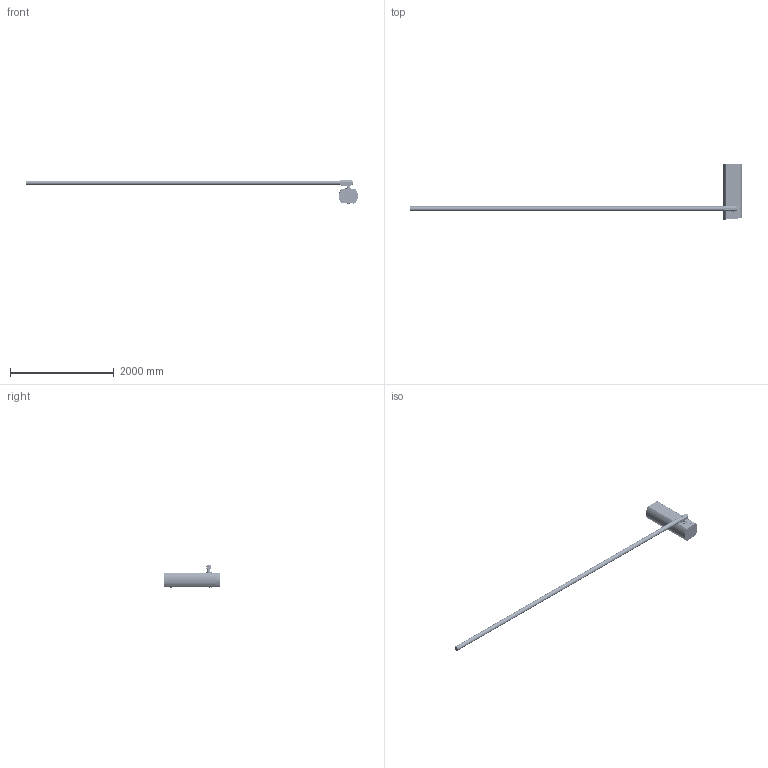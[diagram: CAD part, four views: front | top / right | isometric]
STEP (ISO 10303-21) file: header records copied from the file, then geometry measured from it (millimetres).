
FILE_DESCRIPTION(/* description */ ('Unknown'),/* implementation_level */ '2;1');
FILE_NAME(/* name */ 'GS6.1 со стрелой',/* time_stamp */ '2025-07-28T11:12:38+03:00',/* author */ ('Unknown'),/* organization */ ('Unknown'),/* preprocessor_version */ 'ST-DEVELOPER v18.102',/* originating_system */ 'Solid Edge',/* authorisation */ 'Unknown');
FILE_SCHEMA (('AUTOMOTIVE_DESIGN {1 0 10303 214 3 1 1}'));
Length unit declared in the file: millimetre
Products named in the file (175): GS6.1 äëÿ ÄÌ; GS6.1.000.00 Ñòîéêà øëàãáàóìà; GS4.1.014.00 扻豵鵨; GS4.1.014.03 Óïëîòíèòåëü; GS4.010.02 Óïëîòíèòåëü; GS4.010.02-01 Óïëîòíèòåëü; 嵑殧趌6_DIN_125; Çàêëåïêà_ðåçüáîâàÿ_Ì4_FTS.C_1,5...3,5; 鍔錓_M6x20_DIN_933; 蹴濋趌M6_DIN_934; 嵑殧趌6_DIN_127; GS4.010.02-02 Óïëîòíèòåëü; 10õ10_çåìëÿ_50x20 Íàêëåéêà; GS4.1.015.00 扻豵鵨; GS4.1.015.01 Ãðàíü ðàçäåëêà ïîä øàðíèð; GS4.1.015.02 Ãðàíü áîêîâàÿ ëåâàÿ; GS4.1.015.03Ì Ôëàíåö âåðõíèé_oa_0; GS4.1.015.04 婑鳧氀 膻緱鴇_oa_1; GS4.011.07 赶鎀鍧; GS4.1.015.12 扰鍙欙樥燲oa_2; GS4.1.015.13 砑僔蠂縺_oa_3; GS4.1.015.13 砑僔蠂縺_oa_4; GS4.011.11 砑僔蠂縺; GS04.1.015.06 砑僔蠂縺; GS4.1.015.05 砑僔蠂縺; GS4.015.21 ﾇ璋襃; GS4.016.00 眈翴錪; GS4.1.016.01 眈翴錪; GS14.012.02 Áîáûøêà; GS4.1.015.14 砑僔蠂縺; GS4.1.015.02 Ãðàíü áîêîâàÿ ëåâàÿ_mir; 鎔艜_M3x6_DIN_965; GS4.011.08 Ïëàñòèíà äàò÷èêà; GS4.012.00 鍔膰睯縺; GS4.012.01 鍔膰睯縺_oa_9; GS4.012.02 斿膼; GS4.012.03 凎摫螵oa_10; GS4.012.04 砑僔蠂縺; GS4.012.03 凎摫螵oa_11; GS4.012.03 凎摫螵oa_12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
Assembly tree (370 placements, depth 6):
  GS6.1 äëÿ ÄÌ
    GS6.1.000.00 Ñòîéêà øëàãáàóìà
      GS4.1.014.00 扻豵鵨
        GS4.1.014.03 Óïëîòíèòåëü
        GS4.010.02 Óïëîòíèòåëü  x2
        GS4.010.02-01 Óïëîòíèòåëü
        嵑殧趌6_DIN_125  x3
        Çàêëåïêà_ðåçüáîâàÿ_Ì4_FTS.C_1,5...3,5  x8
        鍔錓_M6x20_DIN_933
        蹴濋趌M6_DIN_934
        嵑殧趌6_DIN_127
        GS4.010.02-02 Óïëîòíèòåëü  x2
        10õ10_çåìëÿ_50x20 Íàêëåéêà
        GS4.1.015.00 扻豵鵨
          GS4.1.015.01 Ãðàíü ðàçäåëêà ïîä øàðíèð
          GS4.1.015.02 Ãðàíü áîêîâàÿ ëåâàÿ
          GS4.1.015.03Ì Ôëàíåö âåðõíèé_oa_0
          GS4.1.015.04 婑鳧氀 膻緱鴇_oa_1
          GS4.011.07 赶鎀鍧  x8
          GS4.1.015.12 扰鍙欙樥燲oa_2
          GS4.1.015.13 砑僔蠂縺_oa_3
          GS4.1.015.13 砑僔蠂縺_oa_4
          GS4.011.11 砑僔蠂縺  x2
          GS04.1.015.06 砑僔蠂縺
          GS4.1.015.05 砑僔蠂縺
          GS4.015.21 ﾇ璋襃  x2
          GS4.016.00 眈翴錪
            GS4.1.016.01 眈翴錪
            GS14.012.02 Áîáûøêà  x6
          GS4.1.015.14 砑僔蠂縺
          GS4.1.015.02 Ãðàíü áîêîâàÿ ëåâàÿ_mir
        鎔艜_M3x6_DIN_965  x2
        GS4.011.08 Ïëàñòèíà äàò÷èêà
      GS4.012.00 鍔膰睯縺
        GS4.012.01 鍔膰睯縺_oa_9
        GS4.012.02 斿膼
        GS4.012.03 凎摫螵oa_10
        GS4.012.04 砑僔蠂縺
        GS4.012.03 凎摫螵oa_11
        GS4.012.03 凎摫螵oa_12
        GS4.012.03-01 凎摫螵oa_13
        Çàêëåïêà_ðåçüáîâàÿ_Ì4_FTT.C_0,3...2,5_oa_14
        Çàêëåïêà_ðåçüáîâàÿ_Ì4_FTT.C_0,3...2,5_oa_15
        Çàêëåïêà_ðåçüáîâàÿ_Ì4_FTT.C_0,3...2,5_oa_16
        Çàêëåïêà_ðåçüáîâàÿ_Ì4_FTT.C_0,3...2,5_oa_17
        Çàêëåïêà_ðåçüáîâàÿ_Ì4_FTT.C_0,3...2,5_oa_18
        Çàêëåïêà_ðåçüáîâàÿ_Ì4_FTT.C_0,3...2,5_oa_19
        Çàêëåïêà_ðåçüáîâàÿ_Ì4_FTT.C_0,3...2,5_oa_20
        Çàêëåïêà_ðåçüáîâàÿ_Ì4_FTT.C_0,3...2,5_oa_21
      GS4.1 磬觌彘赅 皴痂轫 眍戾餩r2
      GS4.1.035.00 署赅
        GS4.1.036.00 署赅
          GS4.1.036.01 Ãðàíü êðûøêè
          GS4.1.036.01-01 Ãðàíü êðûøêè
          GS4.1.036.02 Ãðàíü âåðõíÿÿ
          GS4.1.036.04 砎鳽鳻
          GS4.1.036.03 Îñíîâàíèå êðûøêè
        óïëîòíèòåëü êðûøêè_r1
        Çàêëåïêà_ðåçüáîâàÿ_Ì6_FTTE_0,5...3,0_oa_5
        GS4.1.030_íàêëåéêà ñõåìà
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Bounding box: 6415.86 x 1071.92 x 453.5 mm (x, y, z)
Volume: 19456269.5 mm3; surface area: 9850846.6 mm2
Topology: 434 solids, 474 shells, 16187 faces, 41015 edges, 26094 vertices
Faces by surface type: plane 12155, cylinder 2808, cone 705, torus 303, bspline 123, sphere 93
Full cylindrical faces by diameter (mm): 0.688 x1, 0.7 x10, 0.851 x1, 1.3 x25, 1.567 x4, 1.597 x3, 1.6 x3, 1.836 x8, 2 x21, 2.2 x8, 2.3 x3, 2.459 x26, 2.5 x8, 2.6 x6, 2.796 x1, 3 x33, 3.1 x4, 3.141 x16, 3.2 x5, 3.242 x30, 3.28 x4, 3.3 x2, 3.5 x4, 3.6 x3, 3.714 x12, 3.8 x6, 3.9 x36, 3.95 x16, 4 x107, 4.134 x10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
Entity records: 442480 total; most frequent: CARTESIAN_POINT 75795, ORIENTED_EDGE 63016, DIRECTION 60872, EDGE_CURVE 31508, LINE 25512, VECTOR 25512, VERTEX_POINT 20743, AXIS2_PLACEMENT_3D 17680
